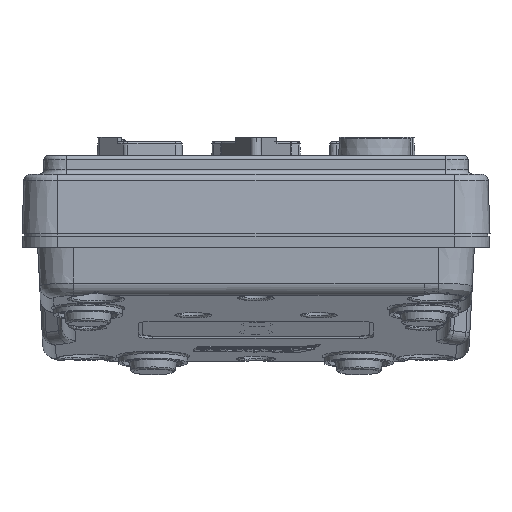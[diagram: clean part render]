
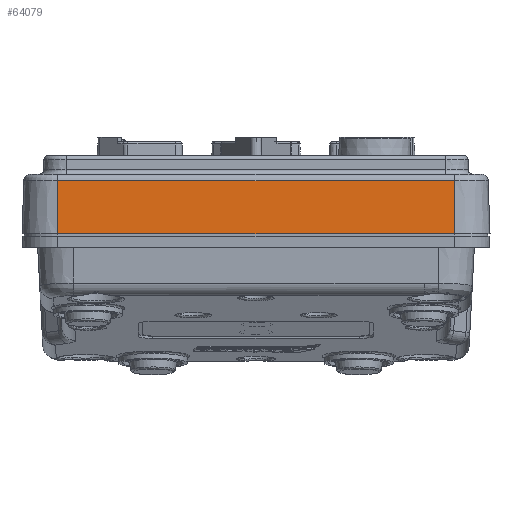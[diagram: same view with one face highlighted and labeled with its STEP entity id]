
A CAD part, front view. The second image highlights one B-rep face of the part: STEP entity #64079.
In plain terms, the highlighted planar face has unit normal (0, -0.999, 0.035).
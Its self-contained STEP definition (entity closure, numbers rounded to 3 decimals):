
#1322 = DIRECTION ( 'NONE',  ( 0., -0.035, -0.999 ) ) ;
#9852 = DIRECTION ( 'NONE',  ( 1., 0., 0. ) ) ;
#10656 = EDGE_CURVE ( 'NONE', #162988, #74588, #120826, .T. ) ;
#17864 = CARTESIAN_POINT ( 'NONE',  ( -44.25, -59.25, 0. ) ) ;
#19639 = DIRECTION ( 'NONE',  ( 0., -0.999, 0.035 ) ) ;
#35189 = VECTOR ( 'NONE', #130178, 1000. ) ;
#45884 = CARTESIAN_POINT ( 'NONE',  ( -44.25, -59.25, 0. ) ) ;
#46615 = VECTOR ( 'NONE', #151730, 1000. ) ;
#50099 = VECTOR ( 'NONE', #9852, 1000. ) ;
#52295 = LINE ( 'NONE', #86052, #50099 ) ;
#53991 = CARTESIAN_POINT ( 'NONE',  ( -44.25, -58.836, 11.852 ) ) ;
#55718 = ORIENTED_EDGE ( 'NONE', *, *, #107174, .T. ) ;
#58992 = ORIENTED_EDGE ( 'NONE', *, *, #67466, .T. ) ;
#60347 = PLANE ( 'NONE',  #141260 ) ;
#61154 = CARTESIAN_POINT ( 'NONE',  ( 44.25, -58.836, 11.852 ) ) ;
#64079 = ADVANCED_FACE ( 'NONE', ( #161059 ), #60347, .T. ) ;
#67466 = EDGE_CURVE ( 'NONE', #81887, #130127, #82535, .T. ) ;
#71460 = DIRECTION ( 'NONE',  ( 0., -0.035, -0.999 ) ) ;
#74588 = VERTEX_POINT ( 'NONE', #77190 ) ;
#77190 = CARTESIAN_POINT ( 'NONE',  ( 44.25, -59.25, 0. ) ) ;
#80426 = CARTESIAN_POINT ( 'NONE',  ( -44.25, -58.836, 11.852 ) ) ;
#81887 = VERTEX_POINT ( 'NONE', #80426 ) ;
#82535 = LINE ( 'NONE', #96602, #46615 ) ;
#85418 = VECTOR ( 'NONE', #1322, 1000. ) ;
#86052 = CARTESIAN_POINT ( 'NONE',  ( -44.25, -59.25, 0. ) ) ;
#96602 = CARTESIAN_POINT ( 'NONE',  ( -44.25, -59.25, 0. ) ) ;
#99805 = EDGE_LOOP ( 'NONE', ( #127925, #138714, #58992, #55718 ) ) ;
#107174 = EDGE_CURVE ( 'NONE', #130127, #74588, #52295, .T. ) ;
#115867 = EDGE_CURVE ( 'NONE', #162988, #81887, #145465, .T. ) ;
#120547 = CARTESIAN_POINT ( 'NONE',  ( 44.25, -59.25, 0. ) ) ;
#120826 = LINE ( 'NONE', #120547, #85418 ) ;
#127925 = ORIENTED_EDGE ( 'NONE', *, *, #10656, .F. ) ;
#130127 = VERTEX_POINT ( 'NONE', #17864 ) ;
#130178 = DIRECTION ( 'NONE',  ( -1., 0., 0. ) ) ;
#138714 = ORIENTED_EDGE ( 'NONE', *, *, #115867, .T. ) ;
#141260 = AXIS2_PLACEMENT_3D ( 'NONE', #45884, #19639, #71460 ) ;
#145465 = LINE ( 'NONE', #53991, #35189 ) ;
#151730 = DIRECTION ( 'NONE',  ( 0., -0.035, -0.999 ) ) ;
#161059 = FACE_OUTER_BOUND ( 'NONE', #99805, .T. ) ;
#162988 = VERTEX_POINT ( 'NONE', #61154 ) ;
